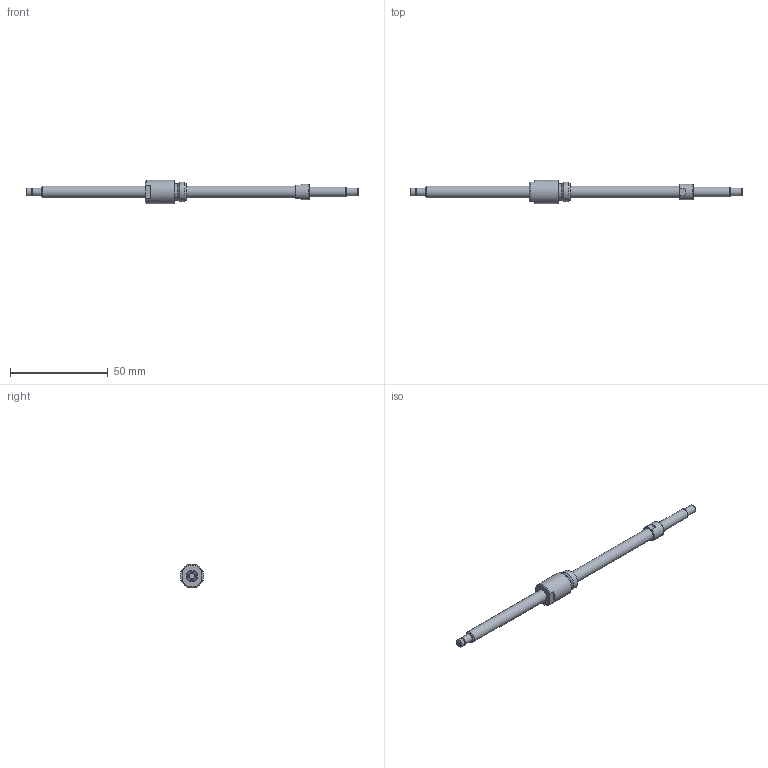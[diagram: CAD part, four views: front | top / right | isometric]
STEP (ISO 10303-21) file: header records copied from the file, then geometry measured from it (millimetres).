
FILE_DESCRIPTION(/* description */ ('STEP AP214'),/* implementation_level */ '2;1');
FILE_NAME(/* name */ 'NSG0602-127R170C5B0X(53)',/* time_stamp */ '2026-08-20T15:46:48+02:00',/* author */ ('License CC BY-ND 4.0'),/* organization */ ('CADENAS'),/* preprocessor_version */ 'ST-DEVELOPER v20',/* originating_system */ 'PARTsolutions',/* authorisation */ ' ');
FILE_SCHEMA (('AUTOMOTIVE_DESIGN {1 0 10303 214 3 1 1}'));
Length unit declared in the file: millimetre
Products named in the file (3): NSG0602-127R170C5B0X(53); NSG0602-127R170C3B_shaft; NSG0602_nut
Assembly tree (2 placements, depth 2):
  NSG0602-127R170C5B0X(53)
    NSG0602-127R170C3B_shaft
    NSG0602_nut
Bounding box: 170 x 12 x 12 mm (x, y, z)
Volume: 6046.8 mm3; surface area: 4496.7 mm2
Topology: 2 solids, 2 shells, 41 faces, 80 edges, 50 vertices
Faces by surface type: plane 19, cylinder 11, cone 10, torus 1
Full cylindrical faces by diameter (mm): 3.7 x1, 4 x3, 5 x1, 6 x2, 8 x1, 8.4 x1, 10 x1, 12 x1
Entity records: 1017 total; most frequent: DIRECTION 180, CARTESIAN_POINT 162, ORIENTED_EDGE 116, AXIS2_PLACEMENT_3D 82, EDGE_LOOP 70, FACE_BOUND 70, EDGE_CURVE 58, VERTEX_POINT 48
